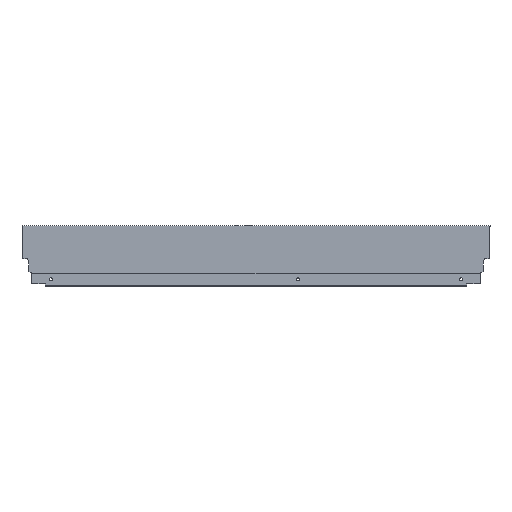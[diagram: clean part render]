
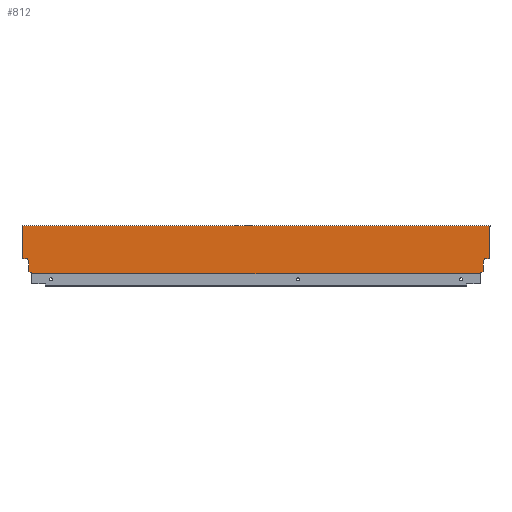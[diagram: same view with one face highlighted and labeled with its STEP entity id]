
A CAD part, top view. The second image highlights one B-rep face of the part: STEP entity #812.
In plain terms, the highlighted planar face has unit normal (0, 0, 1).
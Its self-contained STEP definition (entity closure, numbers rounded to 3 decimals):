
#48 = VECTOR ( 'NONE', #1488, 1000. ) ;
#49 = LINE ( 'NONE', #1487, #48 ) ;
#52 = VECTOR ( 'NONE', #1484, 1000. ) ;
#53 = LINE ( 'NONE', #1483, #52 ) ;
#54 = VECTOR ( 'NONE', #1482, 1000. ) ;
#55 = LINE ( 'NONE', #1481, #54 ) ;
#56 = VECTOR ( 'NONE', #1480, 1000. ) ;
#57 = LINE ( 'NONE', #1479, #56 ) ;
#61 = VECTOR ( 'NONE', #1406, 1000. ) ;
#81 = LINE ( 'NONE', #1405, #61 ) ;
#103 = VECTOR ( 'NONE', #1478, 1000. ) ;
#104 = LINE ( 'NONE', #1465, #109 ) ;
#105 = VECTOR ( 'NONE', #1464, 1000. ) ;
#106 = LINE ( 'NONE', #1463, #105 ) ;
#107 = VECTOR ( 'NONE', #1468, 1000. ) ;
#108 = LINE ( 'NONE', #1467, #107 ) ;
#109 = VECTOR ( 'NONE', #1466, 1000. ) ;
#110 = LINE ( 'NONE', #1471, #1380 ) ;
#111 = VECTOR ( 'NONE', #1470, 1000. ) ;
#112 = LINE ( 'NONE', #1469, #111 ) ;
#113 = LINE ( 'NONE', #1457, #144 ) ;
#125 = VECTOR ( 'NONE', #1454, 1000. ) ;
#126 = VECTOR ( 'NONE', #1462, 1000. ) ;
#127 = LINE ( 'NONE', #1461, #126 ) ;
#129 = VECTOR ( 'NONE', #1460, 1000. ) ;
#132 = LINE ( 'NONE', #1453, #125 ) ;
#135 = LINE ( 'NONE', #1446, #129 ) ;
#137 = VECTOR ( 'NONE', #1445, 1000. ) ;
#139 = LINE ( 'NONE', #1444, #137 ) ;
#144 = VECTOR ( 'NONE', #1458, 1000. ) ;
#145 = LINE ( 'NONE', #1459, #1678 ) ;
#231 = CARTESIAN_POINT ( 'NONE',  ( 0., 21.2, 7.5 ) ) ;
#238 = CARTESIAN_POINT ( 'NONE',  ( -657.94, 21.2, 7.5 ) ) ;
#243 = CARTESIAN_POINT ( 'NONE',  ( -656.1, 2.64, 7.5 ) ) ;
#248 = CARTESIAN_POINT ( 'NONE',  ( -665., 66.5, 7.5 ) ) ;
#251 = CARTESIAN_POINT ( 'NONE',  ( -8.9, 2.64, 7.5 ) ) ;
#252 = CARTESIAN_POINT ( 'NONE',  ( -651.996, 1.146, 7.5 ) ) ;
#253 = CARTESIAN_POINT ( 'NONE',  ( -666., 66.5, 7.5 ) ) ;
#254 = CARTESIAN_POINT ( 'NONE',  ( 1., 68., 7.5 ) ) ;
#255 = CARTESIAN_POINT ( 'NONE',  ( -13.004, 0., 7.5 ) ) ;
#261 = CARTESIAN_POINT ( 'NONE',  ( -665., 21.2, 7.5 ) ) ;
#264 = CARTESIAN_POINT ( 'NONE',  ( -666., 68., 7.5 ) ) ;
#289 = CARTESIAN_POINT ( 'NONE',  ( 1., 66.5, 7.5 ) ) ;
#331 = VERTEX_POINT ( 'NONE', #289 ) ;
#356 = VERTEX_POINT ( 'NONE', #264 ) ;
#359 = VERTEX_POINT ( 'NONE', #261 ) ;
#365 = VERTEX_POINT ( 'NONE', #255 ) ;
#366 = VERTEX_POINT ( 'NONE', #254 ) ;
#367 = VERTEX_POINT ( 'NONE', #253 ) ;
#368 = VERTEX_POINT ( 'NONE', #252 ) ;
#369 = VERTEX_POINT ( 'NONE', #251 ) ;
#372 = VERTEX_POINT ( 'NONE', #248 ) ;
#377 = VERTEX_POINT ( 'NONE', #243 ) ;
#382 = VERTEX_POINT ( 'NONE', #238 ) ;
#389 = VERTEX_POINT ( 'NONE', #231 ) ;
#397 = VERTEX_POINT ( 'NONE', #417 ) ;
#398 = VERTEX_POINT ( 'NONE', #416 ) ;
#407 = VERTEX_POINT ( 'NONE', #423 ) ;
#411 = VERTEX_POINT ( 'NONE', #431 ) ;
#414 = VERTEX_POINT ( 'NONE', #438 ) ;
#416 = CARTESIAN_POINT ( 'NONE',  ( 0., 66.5, 7.5 ) ) ;
#417 = CARTESIAN_POINT ( 'NONE',  ( -8.9, 10.765, 7.5 ) ) ;
#423 = CARTESIAN_POINT ( 'NONE',  ( -651.996, 0., 7.5 ) ) ;
#431 = CARTESIAN_POINT ( 'NONE',  ( -13.004, 1.146, 7.5 ) ) ;
#438 = CARTESIAN_POINT ( 'NONE',  ( -7.06, 21.2, 7.5 ) ) ;
#490 = CARTESIAN_POINT ( 'NONE',  ( -656.1, 10.765, 7.5 ) ) ;
#572 = PLANE ( 'NONE',  #741 ) ;
#575 = CARTESIAN_POINT ( 'NONE',  ( -665., 0., 7.5 ) ) ;
#581 = DIRECTION ( 'NONE',  ( 0., 0., 1. ) ) ;
#582 = DIRECTION ( 'NONE',  ( 1., 0., 0. ) ) ;
#741 = AXIS2_PLACEMENT_3D ( 'NONE', #575, #581, #582 ) ;
#786 = LINE ( 'NONE', #1477, #103 ) ;
#788 = VERTEX_POINT ( 'NONE', #490 ) ;
#789 = VECTOR ( 'NONE', #1476, 1000. ) ;
#790 = LINE ( 'NONE', #1475, #789 ) ;
#812 = ADVANCED_FACE ( 'NONE', ( #1658 ), #572, .T. ) ;
#852 = EDGE_CURVE ( 'NONE', #398, #389, #81, .T. ) ;
#870 = EDGE_CURVE ( 'NONE', #788, #382, #139, .T. ) ;
#874 = EDGE_CURVE ( 'NONE', #367, #356, #132, .T. ) ;
#876 = EDGE_CURVE ( 'NONE', #372, #359, #113, .T. ) ;
#877 = EDGE_CURVE ( 'NONE', #407, #365, #135, .T. ) ;
#878 = EDGE_CURVE ( 'NONE', #368, #377, #127, .T. ) ;
#879 = EDGE_CURVE ( 'NONE', #367, #372, #106, .T. ) ;
#880 = EDGE_CURVE ( 'NONE', #397, #369, #104, .T. ) ;
#881 = EDGE_CURVE ( 'NONE', #382, #359, #108, .T. ) ;
#882 = EDGE_CURVE ( 'NONE', #414, #397, #112, .T. ) ;
#883 = EDGE_CURVE ( 'NONE', #356, #366, #110, .T. ) ;
#884 = EDGE_CURVE ( 'NONE', #389, #414, #145, .T. ) ;
#885 = EDGE_CURVE ( 'NONE', #377, #788, #790, .T. ) ;
#886 = EDGE_CURVE ( 'NONE', #331, #398, #786, .T. ) ;
#887 = EDGE_CURVE ( 'NONE', #407, #368, #57, .T. ) ;
#888 = EDGE_CURVE ( 'NONE', #366, #331, #55, .T. ) ;
#889 = EDGE_CURVE ( 'NONE', #411, #365, #53, .T. ) ;
#891 = EDGE_CURVE ( 'NONE', #369, #411, #49, .T. ) ;
#1073 = ORIENTED_EDGE ( 'NONE', *, *, #884, .F. ) ;
#1265 = EDGE_LOOP ( 'NONE', ( #1365, #1366, #1367, #1370, #1371, #1353, #1354, #1355, #1368, #1369, #1349, #1350, #1351, #1372, #1073, #1374, #1376, #1378 ) ) ;
#1349 = ORIENTED_EDGE ( 'NONE', *, *, #889, .F. ) ;
#1350 = ORIENTED_EDGE ( 'NONE', *, *, #891, .F. ) ;
#1351 = ORIENTED_EDGE ( 'NONE', *, *, #880, .F. ) ;
#1353 = ORIENTED_EDGE ( 'NONE', *, *, #870, .F. ) ;
#1354 = ORIENTED_EDGE ( 'NONE', *, *, #885, .F. ) ;
#1355 = ORIENTED_EDGE ( 'NONE', *, *, #878, .F. ) ;
#1365 = ORIENTED_EDGE ( 'NONE', *, *, #883, .F. ) ;
#1366 = ORIENTED_EDGE ( 'NONE', *, *, #874, .F. ) ;
#1367 = ORIENTED_EDGE ( 'NONE', *, *, #879, .T. ) ;
#1368 = ORIENTED_EDGE ( 'NONE', *, *, #887, .F. ) ;
#1369 = ORIENTED_EDGE ( 'NONE', *, *, #877, .T. ) ;
#1370 = ORIENTED_EDGE ( 'NONE', *, *, #876, .T. ) ;
#1371 = ORIENTED_EDGE ( 'NONE', *, *, #881, .F. ) ;
#1372 = ORIENTED_EDGE ( 'NONE', *, *, #882, .F. ) ;
#1374 = ORIENTED_EDGE ( 'NONE', *, *, #852, .F. ) ;
#1376 = ORIENTED_EDGE ( 'NONE', *, *, #886, .F. ) ;
#1378 = ORIENTED_EDGE ( 'NONE', *, *, #888, .F. ) ;
#1380 = VECTOR ( 'NONE', #1472, 1000. ) ;
#1405 = CARTESIAN_POINT ( 'NONE',  ( 0., 0., 7.5 ) ) ;
#1406 = DIRECTION ( 'NONE',  ( 0., -1., 0. ) ) ;
#1444 = CARTESIAN_POINT ( 'NONE',  ( -657.94, 21.2, 7.5 ) ) ;
#1445 = DIRECTION ( 'NONE',  ( -0.174, 0.985, 0. ) ) ;
#1446 = CARTESIAN_POINT ( 'NONE',  ( -665., 0., 7.5 ) ) ;
#1453 = CARTESIAN_POINT ( 'NONE',  ( -666., 66.5, 7.5 ) ) ;
#1454 = DIRECTION ( 'NONE',  ( 0., 1., 0. ) ) ;
#1457 = CARTESIAN_POINT ( 'NONE',  ( -665., 0., 7.5 ) ) ;
#1458 = DIRECTION ( 'NONE',  ( 0., -1., 0. ) ) ;
#1459 = CARTESIAN_POINT ( 'NONE',  ( 0., 21.2, 7.5 ) ) ;
#1460 = DIRECTION ( 'NONE',  ( 1., 0., 0. ) ) ;
#1461 = CARTESIAN_POINT ( 'NONE',  ( -656.1, 2.64, 7.5 ) ) ;
#1462 = DIRECTION ( 'NONE',  ( -0.94, 0.342, 0. ) ) ;
#1463 = CARTESIAN_POINT ( 'NONE',  ( -666., 66.5, 7.5 ) ) ;
#1464 = DIRECTION ( 'NONE',  ( 1., 0., 0. ) ) ;
#1465 = CARTESIAN_POINT ( 'NONE',  ( -8.9, 10.765, 7.5 ) ) ;
#1466 = DIRECTION ( 'NONE',  ( 0., -1., 0. ) ) ;
#1467 = CARTESIAN_POINT ( 'NONE',  ( -670., 21.2, 7.5 ) ) ;
#1468 = DIRECTION ( 'NONE',  ( -1., 0., 0. ) ) ;
#1469 = CARTESIAN_POINT ( 'NONE',  ( -7.06, 21.2, 7.5 ) ) ;
#1470 = DIRECTION ( 'NONE',  ( -0.174, -0.985, 0. ) ) ;
#1471 = CARTESIAN_POINT ( 'NONE',  ( -665., 68., 7.5 ) ) ;
#1472 = DIRECTION ( 'NONE',  ( 1., 0., 0. ) ) ;
#1474 = DIRECTION ( 'NONE',  ( -1., 0., 0. ) ) ;
#1475 = CARTESIAN_POINT ( 'NONE',  ( -656.1, 10.765, 7.5 ) ) ;
#1476 = DIRECTION ( 'NONE',  ( 0., 1., 0. ) ) ;
#1477 = CARTESIAN_POINT ( 'NONE',  ( 1., 66.5, 7.5 ) ) ;
#1478 = DIRECTION ( 'NONE',  ( -1., 0., 0. ) ) ;
#1479 = CARTESIAN_POINT ( 'NONE',  ( -651.996, 1.146, 7.5 ) ) ;
#1480 = DIRECTION ( 'NONE',  ( 0., 1., 0. ) ) ;
#1481 = CARTESIAN_POINT ( 'NONE',  ( 1., 68., 7.5 ) ) ;
#1482 = DIRECTION ( 'NONE',  ( 0., -1., 0. ) ) ;
#1483 = CARTESIAN_POINT ( 'NONE',  ( -13.004, 1.146, 7.5 ) ) ;
#1484 = DIRECTION ( 'NONE',  ( 0., -1., 0. ) ) ;
#1487 = CARTESIAN_POINT ( 'NONE',  ( -8.9, 2.64, 7.5 ) ) ;
#1488 = DIRECTION ( 'NONE',  ( -0.94, -0.342, 0. ) ) ;
#1658 = FACE_OUTER_BOUND ( 'NONE', #1265, .T. ) ;
#1678 = VECTOR ( 'NONE', #1474, 1000. ) ;
